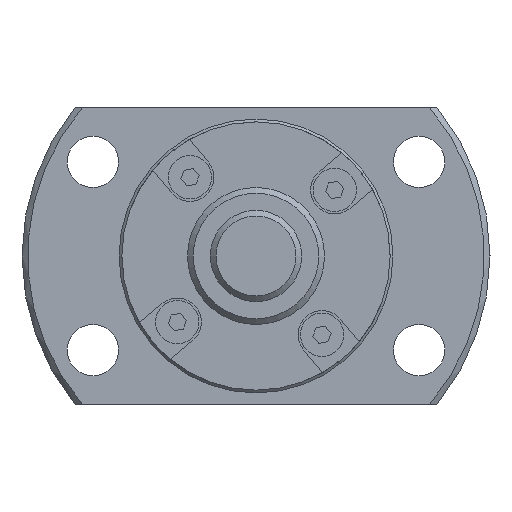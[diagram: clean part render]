
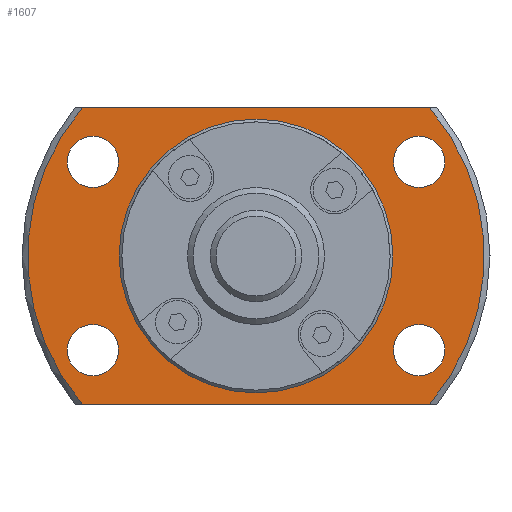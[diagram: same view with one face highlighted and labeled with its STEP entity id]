
A CAD part, left-side view. The second image highlights one B-rep face of the part: STEP entity #1607.
In plain terms, the highlighted planar face has unit normal (-1, 0, 0).
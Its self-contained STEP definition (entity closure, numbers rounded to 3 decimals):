
#128=LINE('',#2647,#248);
#129=LINE('',#2651,#249);
#248=VECTOR('',#2136,1000.);
#249=VECTOR('',#2139,1000.);
#468=ORIENTED_EDGE('',*,*,#837,.T.);
#469=ORIENTED_EDGE('',*,*,#838,.T.);
#470=ORIENTED_EDGE('',*,*,#839,.T.);
#471=ORIENTED_EDGE('',*,*,#840,.T.);
#472=ORIENTED_EDGE('',*,*,#793,.F.);
#473=ORIENTED_EDGE('',*,*,#841,.T.);
#474=ORIENTED_EDGE('',*,*,#842,.F.);
#475=ORIENTED_EDGE('',*,*,#843,.T.);
#476=ORIENTED_EDGE('',*,*,#836,.T.);
#793=EDGE_CURVE('',#995,#996,#1120,.T.);
#836=EDGE_CURVE('',#1033,#1033,#1142,.T.);
#837=EDGE_CURVE('',#1034,#1034,#1143,.T.);
#838=EDGE_CURVE('',#1035,#1035,#1144,.T.);
#839=EDGE_CURVE('',#1036,#1036,#1145,.T.);
#840=EDGE_CURVE('',#1037,#1037,#1146,.T.);
#841=EDGE_CURVE('',#995,#1038,#128,.T.);
#842=EDGE_CURVE('',#1039,#1038,#1147,.T.);
#843=EDGE_CURVE('',#1039,#996,#129,.T.);
#995=VERTEX_POINT('',#2537);
#996=VERTEX_POINT('',#2539);
#1033=VERTEX_POINT('',#2637);
#1034=VERTEX_POINT('',#2640);
#1035=VERTEX_POINT('',#2642);
#1036=VERTEX_POINT('',#2644);
#1037=VERTEX_POINT('',#2646);
#1038=VERTEX_POINT('',#2648);
#1039=VERTEX_POINT('',#2650);
#1120=CIRCLE('',#1761,20.);
#1142=CIRCLE('',#1792,11.75);
#1143=CIRCLE('',#1794,2.25);
#1144=CIRCLE('',#1795,2.25);
#1145=CIRCLE('',#1796,2.25);
#1146=CIRCLE('',#1797,2.25);
#1147=CIRCLE('',#1798,20.);
#1241=EDGE_LOOP('',(#468));
#1242=EDGE_LOOP('',(#469));
#1243=EDGE_LOOP('',(#470));
#1244=EDGE_LOOP('',(#471));
#1245=EDGE_LOOP('',(#472,#473,#474,#475));
#1246=EDGE_LOOP('',(#476));
#1407=FACE_BOUND('',#1241,.T.);
#1408=FACE_BOUND('',#1242,.T.);
#1409=FACE_BOUND('',#1243,.T.);
#1410=FACE_BOUND('',#1244,.T.);
#1411=FACE_BOUND('',#1245,.T.);
#1412=FACE_BOUND('',#1246,.T.);
#1520=PLANE('',#1793);
#1607=ADVANCED_FACE('',(#1407,#1408,#1409,#1410,#1411,#1412),#1520,.F.);
#1761=AXIS2_PLACEMENT_3D('',#2538,#2044,#2045);
#1792=AXIS2_PLACEMENT_3D('',#2636,#2124,#2125);
#1793=AXIS2_PLACEMENT_3D('',#2638,#2126,#2127);
#1794=AXIS2_PLACEMENT_3D('',#2639,#2128,#2129);
#1795=AXIS2_PLACEMENT_3D('',#2641,#2130,#2131);
#1796=AXIS2_PLACEMENT_3D('',#2643,#2132,#2133);
#1797=AXIS2_PLACEMENT_3D('',#2645,#2134,#2135);
#1798=AXIS2_PLACEMENT_3D('',#2649,#2137,#2138);
#2044=DIRECTION('',(1.,0.,0.));
#2045=DIRECTION('',(0.,0.,-1.));
#2124=DIRECTION('',(1.,0.,0.));
#2125=DIRECTION('',(0.,0.,-1.));
#2126=DIRECTION('',(1.,0.,0.));
#2127=DIRECTION('',(0.,0.,-1.));
#2128=DIRECTION('',(1.,0.,0.));
#2129=DIRECTION('',(0.,0.,-1.));
#2130=DIRECTION('',(1.,0.,0.));
#2131=DIRECTION('',(0.,0.,-1.));
#2132=DIRECTION('',(1.,0.,0.));
#2133=DIRECTION('',(0.,0.,-1.));
#2134=DIRECTION('',(1.,0.,0.));
#2135=DIRECTION('',(0.,0.,-1.));
#2136=DIRECTION('',(0.,-1.,0.));
#2137=DIRECTION('',(1.,0.,0.));
#2138=DIRECTION('',(0.,0.,-1.));
#2139=DIRECTION('',(0.,1.,0.));
#2537=CARTESIAN_POINT('',(14.5,15.199,-13.));
#2538=CARTESIAN_POINT('',(14.5,0.,0.));
#2539=CARTESIAN_POINT('',(14.5,15.199,13.));
#2636=CARTESIAN_POINT('',(14.5,0.,0.));
#2637=CARTESIAN_POINT('',(14.5,0.,-11.75));
#2638=CARTESIAN_POINT('',(14.5,11.75,0.));
#2639=CARTESIAN_POINT('',(14.5,-14.289,-8.25));
#2640=CARTESIAN_POINT('',(14.5,-14.289,-10.5));
#2641=CARTESIAN_POINT('',(14.5,-14.289,8.25));
#2642=CARTESIAN_POINT('',(14.5,-14.289,6.));
#2643=CARTESIAN_POINT('',(14.5,14.289,-8.25));
#2644=CARTESIAN_POINT('',(14.5,14.289,-10.5));
#2645=CARTESIAN_POINT('',(14.5,14.289,8.25));
#2646=CARTESIAN_POINT('',(14.5,14.289,6.));
#2647=CARTESIAN_POINT('',(14.5,11.75,-13.));
#2648=CARTESIAN_POINT('',(14.5,-15.199,-13.));
#2649=CARTESIAN_POINT('',(14.5,0.,0.));
#2650=CARTESIAN_POINT('',(14.5,-15.199,13.));
#2651=CARTESIAN_POINT('',(14.5,11.75,13.));
